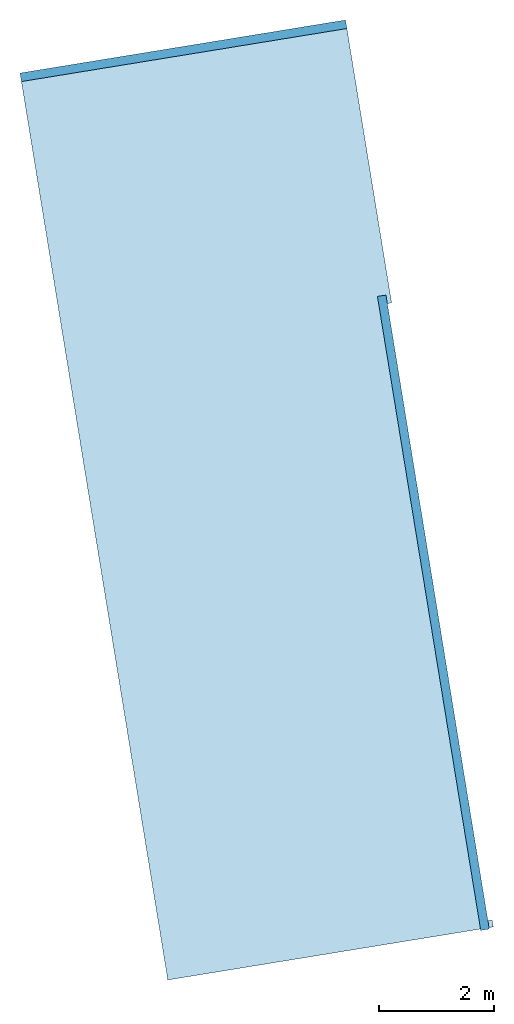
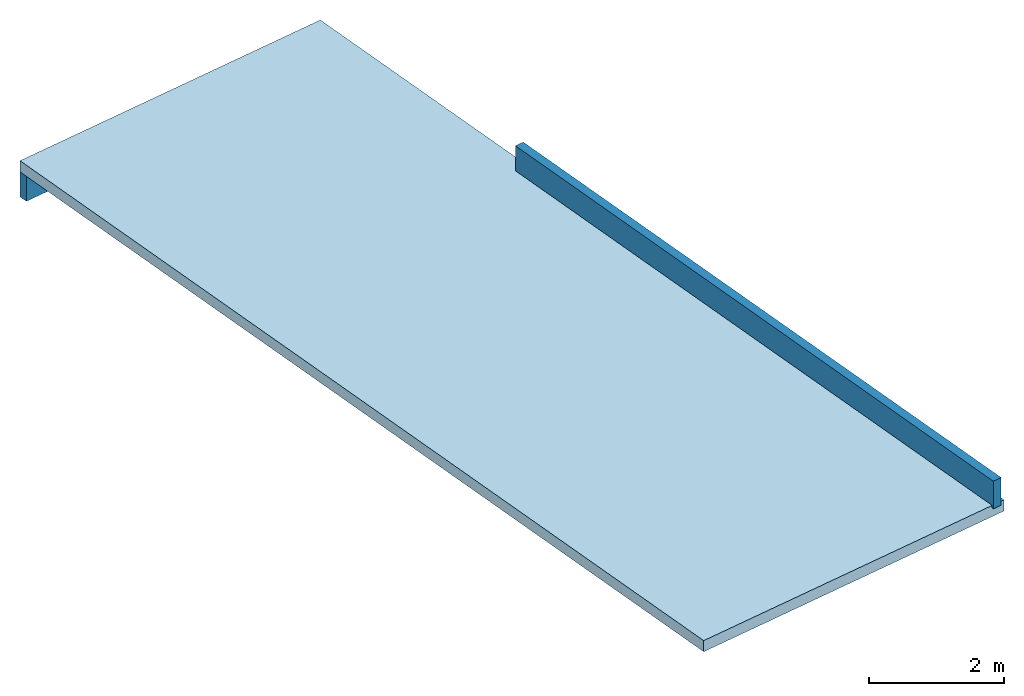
# One storey: 2 walls, 1 slab, 1 element without a shape of its own.
"""IFC2X3 building model written with IfcOpenShell, lengths in millimetres."""

from ifc_helpers import new_model, entity, si_unit, converted_unit, derived_unit, direction, frame, frame_2d, origin, origin_with_axes, place, context, subcontext, project, spatial, rectangle, extrude, faceted_brep, material, layer, layer_set, layer_usage, type_object, element, aggregate, save


model = new_model("IFC2X3")

# Units and contexts
model_context = context("Model", 3, precision=0.01, world=origin(), true_north=direction((6.12323399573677e-17, 1.0)))
plan_context = context("Plan", 3, precision=1e-05, world=origin_with_axes())
body_context = subcontext(model_context, "Body", "Model", "MODEL_VIEW")
ifc_project = project(units=[converted_unit("PLANEANGLEUNIT", "DEGREE", entity("IfcPositiveLengthMeasure", 0.0174532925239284), si_unit("PLANEANGLEUNIT", "RADIAN"), dimensions=[0, 0, 0, 0, 0, 0, 0]), si_unit("AREAUNIT", "SQUARE_METRE"), si_unit("LENGTHUNIT", "METRE", prefix="MILLI"), si_unit("MASSUNIT", "GRAM", prefix="KILO"), si_unit("POWERUNIT", "WATT"), si_unit("PRESSUREUNIT", "PASCAL", prefix="KILO"), si_unit("FORCEUNIT", "NEWTON", prefix="KILO"), si_unit("ELECTRICVOLTAGEUNIT", "VOLT"), si_unit("ELECTRICCURRENTUNIT", "AMPERE"), si_unit("THERMODYNAMICTEMPERATUREUNIT", "DEGREE_CELSIUS"), si_unit("TIMEUNIT", "SECOND"), si_unit("VOLUMEUNIT", "CUBIC_METRE"), derived_unit("LINEARVELOCITYUNIT", [(si_unit("LENGTHUNIT", "METRE"), 1), (si_unit("TIMEUNIT", "SECOND"), -1)]), derived_unit("VOLUMETRICFLOWRATEUNIT", [(si_unit("VOLUMEUNIT", "CUBIC_METRE"), 1), (si_unit("TIMEUNIT", "SECOND"), -1)]), derived_unit("THERMALTRANSMITTANCEUNIT", [(si_unit("POWERUNIT", "WATT"), 1), (si_unit("THERMODYNAMICTEMPERATUREUNIT", "KELVIN"), -1), (si_unit("AREAUNIT", "SQUARE_METRE"), -1)]), derived_unit("SOUNDPRESSUREUNIT", [(si_unit("PRESSUREUNIT", "PASCAL"), 1)])], contexts=[model_context, plan_context])

# Site, building, storey
site_placement = place(None, frame((118326.676922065, 1366174.45681126, 48360.0), z_axis=(0.0, 0.0, 1.0), x_axis=(0.160815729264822, -0.986984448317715, 0.0)))
site = spatial("IfcSite", under=ifc_project, at=site_placement, Name="Default", CompositionType="ELEMENT")
building_placement = place(site_placement, origin_with_axes())
building = spatial("IfcBuilding", under=site, at=building_placement, Name="br002", CompositionType="ELEMENT")
storey_placement = place(building_placement, frame((0.0, 0.0, 7600.0), z_axis=(0.0, 0.0, 1.0), x_axis=(1.0, 0.0, 0.0)))
storey = spatial("IfcBuildingStorey", under=building, at=storey_placement, Name="Tak", CompositionType="ELEMENT", Elevation=7600.0)

# Roof, slab
ifc_material_1 = material(Name="Asphalt, Bitumen")
ifc_layer_1 = layer(ifc_material_1, 20.0)
ifc_material_2 = material(Name="Rigid insulation")
ifc_layer_2 = layer(ifc_material_2, 50.0)
ifc_material_3 = material(Name="Structure, Steel Bar Joist Layer")
ifc_layer_3 = layer(ifc_material_3, 130.0)
ifc_layer_set_1 = layer_set([ifc_layer_1, ifc_layer_2, ifc_layer_3], Name="Basic Roof:Sarnafil Tak")
roof_placement = place(storey_placement, frame((25549.17107821, -21472.8236721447, 0.0), z_axis=(0.0, 0.0, 1.0), x_axis=(1.0, 0.0, 0.0)))
roof = element("IfcRoof", 1, at=roof_placement, inside=storey, material=ifc_layer_set_1, Name="Basic Roof:Sarnafil Tak", ObjectType="Basic Roof:Sarnafil Tak", ShapeType="NOTDEFINED")
slab_type = type_object("IfcSlabType", Name="Basic Roof:Sarnafil Tak", PredefinedType="ROOF")
slab_placement = place(roof_placement, origin_with_axes())
slab = element("IfcSlab", 2, at=slab_placement, type_object=slab_type, Name="Basic Roof:Sarnafil Tak:1", ObjectType="Basic Roof:Sarnafil Tak", PredefinedType="ROOF", context=body_context, shape_type="Brep", body=[
    faceted_brep([(1.81898940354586e-12, 22850.0000000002, 0.0), (1.81898940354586e-12, 22850.0000000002, 200.0), (1.81898940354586e-12, 17125.0000000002, 200.0), (1.81898940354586e-12, 17125.0000000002, 0.0), (15949.9999999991, 17125.0000000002, -1.13686837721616e-13), (15949.9999999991, 22850.0000000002, 0.0), (15824.9999999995, 22850.0000000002, 0.0), (15824.9999999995, 22775.0, 0.0), (4975.00000000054, 22775.0, 0.0), (4975.00000000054, 22850.0000000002, 0.0), (4975.00000000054, 22850.0000000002, 200.0), (4975.00000000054, 22775.0, 200.0), (15824.9999999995, 22775.0, 200.0), (15824.9999999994, 22850.0000000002, 200.0), (15949.9999999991, 22850.0000000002, 200.0), (15949.9999999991, 17125.0000000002, 200.0)], [[[0, 1, 2, 3]], [[3, 4, 5, 6, 7, 8, 9, 0]], [[1, 10, 11, 12, 13, 14, 15, 2]], [[10, 9, 8, 11]], [[7, 12, 11, 8]], [[6, 13, 12, 7]], [[15, 14, 5, 4]], [[14, 13, 6, 5]], [[9, 10, 1, 0]], [[4, 3, 2, 15]]], orient=[[False], [False], [False], [False], [False], [False], [False], [False], [False], [False]]),
])
aggregate(roof, [slab])

# Walls
ifc_material_4 = material(Name="Concrete, Cast In Situ")
ifc_layer_4 = layer(ifc_material_4, 150.0)
ifc_layer_set_2 = layer_set([ifc_layer_4], Name="Basic Wall:E 05 Betong 150 mm")
ifc_layer_usage = layer_usage(ifc_layer_set_2, "AXIS2", "NEGATIVE", 75.0)
wall_type = type_object("IfcWallType", Name="Basic Wall:E 05 Betong 150 mm", PredefinedType="STANDARD", material=ifc_layer_set_2)
wall_1_placement = place(storey_placement, frame((41524.1710782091, 1227.17632785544, 150.0), z_axis=(0.0, 0.0, 1.0), x_axis=(-1.0, 0.0, 0.0)))
element("IfcWallStandardCase", 3, at=wall_1_placement, inside=storey, type_object=wall_type, material=ifc_layer_usage, Name="Basic Wall:E 05 Betong 150 mm", ObjectType="Basic Wall:E 05 Betong 150 mm", context=body_context, shape_type="SweptSolid", body=[
    extrude(rectangle(XDim=11149.9999999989, YDim=150.0, at=frame_2d((5574.99999999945, -2.8421709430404e-14), x_axis=(-1.0, 0.0))), origin(), (0.0, 0.0, 1.0), 499.999999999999),
])
wall_2_placement = place(storey_placement, frame((25624.1710782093, -10072.8236721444, -450.0), z_axis=(0.0, 0.0, 1.0), x_axis=(0.0, 1.0, 0.0)))
element("IfcWall", 4, at=wall_2_placement, inside=storey, type_object=wall_type, Name="Basic Wall:E 05 Betong 150 mm", ObjectType="Basic Wall:E 05 Betong 150 mm", context=body_context, shape_type="Brep", body=[
    faceted_brep([(11449.9999999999, 75.0000000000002, 0.0), (11449.9999999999, 75.0000000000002, 450.0), (5724.99999999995, 75.0000000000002, 450.0), (5724.99999999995, 75.0000000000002, 0.0), (5724.99999999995, -75.0000000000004, 0.0), (5724.99999999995, -75.0000000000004, 450.0), (11449.9999999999, -75.0000000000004, 450.0), (11449.9999999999, -75.0000000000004, 0.0)], [[[0, 1, 2, 3]], [[4, 5, 6, 7]], [[7, 0, 3, 4]], [[1, 6, 5, 2]], [[7, 6, 1, 0]], [[5, 4, 3, 2]]], orient=[[False], [False], [False], [False], [False], [False]]),
])

save(model, "model.ifc")
